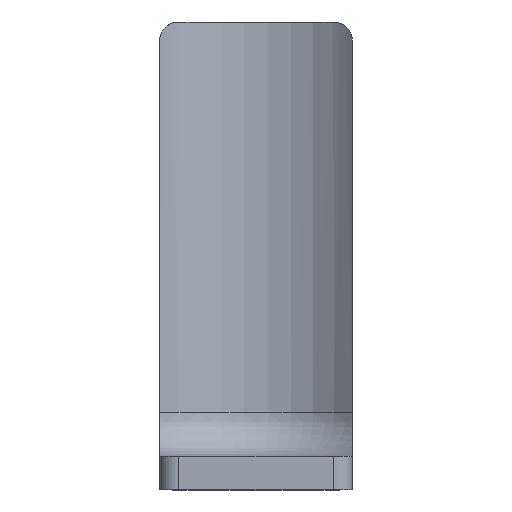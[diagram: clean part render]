
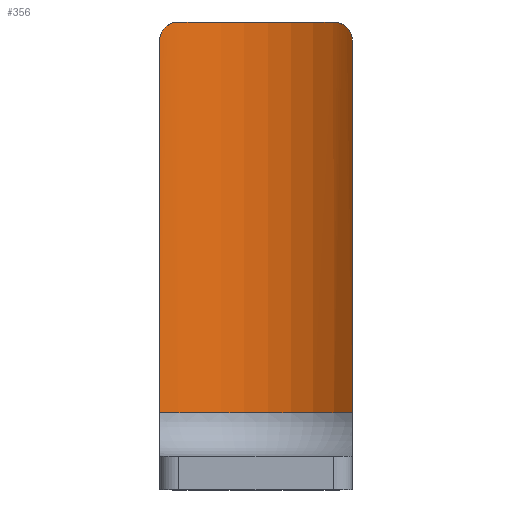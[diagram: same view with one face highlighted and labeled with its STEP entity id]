
A CAD part, front view. The second image highlights one B-rep face of the part: STEP entity #356.
In plain terms, the highlighted cylindrical face has radius 14.5 mm (diameter 29 mm), a partial arc.
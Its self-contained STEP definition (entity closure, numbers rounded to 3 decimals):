
#33=B_SPLINE_CURVE_WITH_KNOTS('',3,(#673,#674,#675,#676,#677,#678,#679,
#680,#681,#682,#683,#684),.UNSPECIFIED.,.F.,.F.,(4,2,2,2,2,4),(-0.344,
-0.253,-0.163,-0.081,-0.041,
0.),.UNSPECIFIED.);
#34=B_SPLINE_CURVE_WITH_KNOTS('',3,(#688,#689,#690,#691,#692,#693,#694,
#695,#696,#697,#698,#699),.UNSPECIFIED.,.F.,.F.,(4,2,2,2,2,4),(0.668,
0.709,0.749,0.831,0.921,
1.012),.UNSPECIFIED.);
#50=FACE_OUTER_BOUND('',#73,.T.);
#73=EDGE_LOOP('',(#273,#274,#275,#276,#277,#278));
#97=LINE('',#551,#119);
#102=LINE('',#700,#124);
#119=VECTOR('',#436,10.);
#124=VECTOR('',#463,10.);
#139=CIRCLE('',#392,14.5);
#144=CIRCLE('',#399,14.5);
#161=VERTEX_POINT('',#548);
#162=VERTEX_POINT('',#550);
#169=VERTEX_POINT('',#641);
#175=VERTEX_POINT('',#672);
#176=VERTEX_POINT('',#685);
#177=VERTEX_POINT('',#687);
#196=EDGE_CURVE('',#161,#162,#97,.T.);
#206=EDGE_CURVE('',#162,#169,#139,.T.);
#214=EDGE_CURVE('',#175,#161,#33,.T.);
#215=EDGE_CURVE('',#176,#175,#144,.T.);
#216=EDGE_CURVE('',#177,#176,#34,.T.);
#217=EDGE_CURVE('',#169,#177,#102,.T.);
#273=ORIENTED_EDGE('',*,*,#206,.F.);
#274=ORIENTED_EDGE('',*,*,#196,.F.);
#275=ORIENTED_EDGE('',*,*,#214,.F.);
#276=ORIENTED_EDGE('',*,*,#215,.F.);
#277=ORIENTED_EDGE('',*,*,#216,.F.);
#278=ORIENTED_EDGE('',*,*,#217,.F.);
#342=CYLINDRICAL_SURFACE('',#398,14.5);
#356=ADVANCED_FACE('',(#50),#342,.F.);
#392=AXIS2_PLACEMENT_3D('',#642,#445,#446);
#398=AXIS2_PLACEMENT_3D('',#671,#459,#460);
#399=AXIS2_PLACEMENT_3D('',#686,#461,#462);
#436=DIRECTION('',(0.,0.,-1.));
#445=DIRECTION('center_axis',(0.,0.,
1.));
#446=DIRECTION('ref_axis',(0.,1.,0.));
#459=DIRECTION('center_axis',(0.,0.,-1.));
#460=DIRECTION('ref_axis',(0.69,0.724,0.));
#461=DIRECTION('center_axis',(0.,0.,
-1.));
#462=DIRECTION('ref_axis',(0.69,0.724,0.));
#463=DIRECTION('',(0.,0.,1.));
#548=CARTESIAN_POINT('',(90.,50.,104.1));
#550=CARTESIAN_POINT('',(90.,50.,65.6));
#551=CARTESIAN_POINT('',(90.,50.,106.1));
#641=CARTESIAN_POINT('',(70.,50.,65.6));
#642=CARTESIAN_POINT('Origin',(80.,39.5,65.6));
#671=CARTESIAN_POINT('Origin',(80.,39.5,106.1));
#672=CARTESIAN_POINT('',(88.,51.593,106.1));
#673=CARTESIAN_POINT('Ctrl Pts',(88.,51.593,106.1));
#674=CARTESIAN_POINT('Ctrl Pts',(88.252,51.427,106.1));
#675=CARTESIAN_POINT('Ctrl Pts',(88.517,51.239,106.05));
#676=CARTESIAN_POINT('Ctrl Pts',(89.006,50.868,105.848));
#677=CARTESIAN_POINT('Ctrl Pts',(89.232,50.684,105.697));
#678=CARTESIAN_POINT('Ctrl Pts',(89.578,50.388,105.35));
#679=CARTESIAN_POINT('Ctrl Pts',(89.731,50.251,105.137));
#680=CARTESIAN_POINT('Ctrl Pts',(89.889,50.105,104.77));
#681=CARTESIAN_POINT('Ctrl Pts',(89.931,50.066,104.64));
#682=CARTESIAN_POINT('Ctrl Pts',(89.986,50.013,104.373));
#683=CARTESIAN_POINT('Ctrl Pts',(90.,50.,104.236));
#684=CARTESIAN_POINT('Ctrl Pts',(90.,50.,104.1));
#685=CARTESIAN_POINT('',(72.,51.593,106.1));
#686=CARTESIAN_POINT('Origin',(80.,39.5,106.1));
#687=CARTESIAN_POINT('',(70.,50.,104.1));
#688=CARTESIAN_POINT('Ctrl Pts',(70.,50.,104.1));
#689=CARTESIAN_POINT('Ctrl Pts',(70.,50.,104.236));
#690=CARTESIAN_POINT('Ctrl Pts',(70.014,50.013,104.373));
#691=CARTESIAN_POINT('Ctrl Pts',(70.069,50.066,104.64));
#692=CARTESIAN_POINT('Ctrl Pts',(70.111,50.105,104.77));
#693=CARTESIAN_POINT('Ctrl Pts',(70.269,50.251,105.137));
#694=CARTESIAN_POINT('Ctrl Pts',(70.422,50.388,105.35));
#695=CARTESIAN_POINT('Ctrl Pts',(70.768,50.684,105.697));
#696=CARTESIAN_POINT('Ctrl Pts',(70.994,50.868,105.848));
#697=CARTESIAN_POINT('Ctrl Pts',(71.483,51.239,106.05));
#698=CARTESIAN_POINT('Ctrl Pts',(71.748,51.427,106.1));
#699=CARTESIAN_POINT('Ctrl Pts',(72.,51.593,106.1));
#700=CARTESIAN_POINT('',(70.,50.,71.1));
